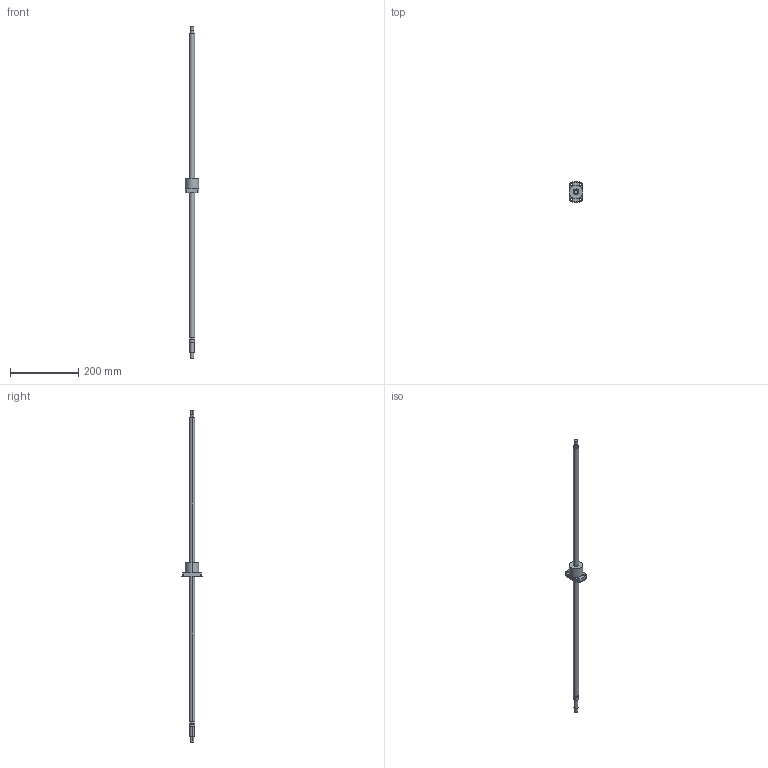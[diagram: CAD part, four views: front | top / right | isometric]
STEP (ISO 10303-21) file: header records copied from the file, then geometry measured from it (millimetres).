
FILE_DESCRIPTION((''),'2;1');
FILE_NAME('R16-5B1-FSW-889-971','2008-03-28T',('mahdi'),(''),'PRO/ENGINEER BY PARAMETRIC TECHNOLOGY CORPORATION, 2005070','PRO/ENGINEER BY PARAMETRIC TECHNOLOGY CORPORATION, 2005070','');
FILE_SCHEMA(('CONFIG_CONTROL_DESIGN'));
Length unit declared in the file: millimetre
Products named in the file (1): R16-5B1-FSW-889-971
Bounding box: 40 x 63 x 971 mm (x, y, z)
Volume: 239769.5 mm3; surface area: 57075.8 mm2
Topology: 1 solids, 1 shells, 66 faces, 148 edges, 96 vertices
Faces by surface type: cylinder 38, plane 28
Entity records: 1926 total; most frequent: DIRECTION 364, CARTESIAN_POINT 310, ORIENTED_EDGE 296, AXIS2_PLACEMENT_3D 150, EDGE_CURVE 148, VERTEX_POINT 96, EDGE_LOOP 86, CIRCLE 84
